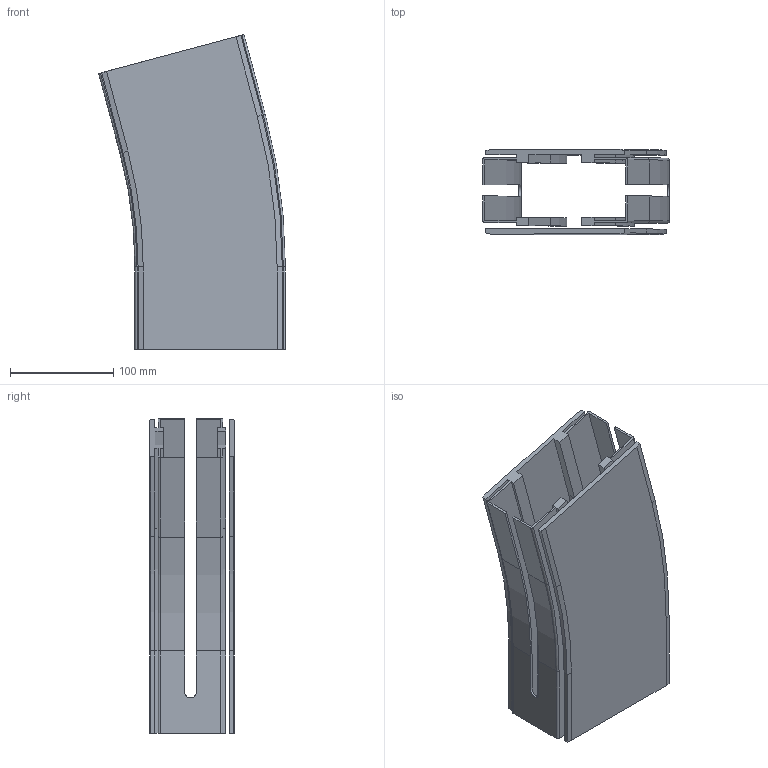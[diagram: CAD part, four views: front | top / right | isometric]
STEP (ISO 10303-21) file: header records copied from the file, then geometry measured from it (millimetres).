
FILE_DESCRIPTION((''),'2;1');
FILE_NAME('C:\Vault Klient\Projekt\Koncept konstruktion\Serie 540 Balk\540-5280.stp','2010-11-24T14:55:17',('Mathias'),(''),'Autodesk Inventor 2011','Autodesk Inventor 2011','');
FILE_SCHEMA(('AUTOMOTIVE_DESIGN { 1 0 10303 214 1 1 1 1 }'));
Length unit declared in the file: millimetre
Products named in the file (1): 540-5280
Bounding box: 181.26 x 82 x 305.58 mm (x, y, z)
Volume: 656199.7 mm3; surface area: 340687.5 mm2
Topology: 2 solids, 2 shells, 163 faces, 446 edges, 292 vertices
Faces by surface type: plane 103, cylinder 36, bspline 14, cone 6, torus 4
Entity records: 5298 total; most frequent: CARTESIAN_POINT 1096, ORIENTED_EDGE 892, DIRECTION 802, EDGE_CURVE 446, VECTOR 334, LINE 334, VERTEX_POINT 292, AXIS2_PLACEMENT_3D 234
